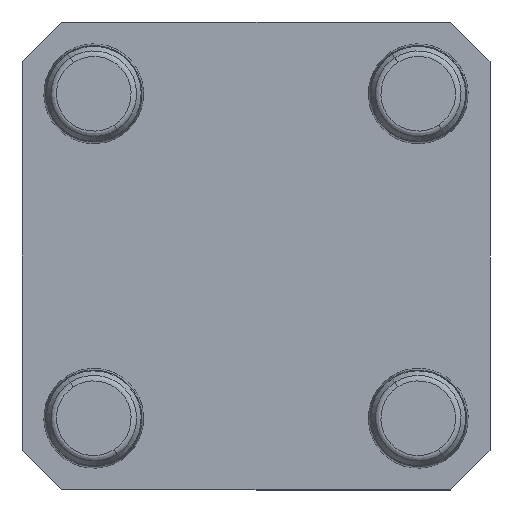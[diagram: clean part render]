
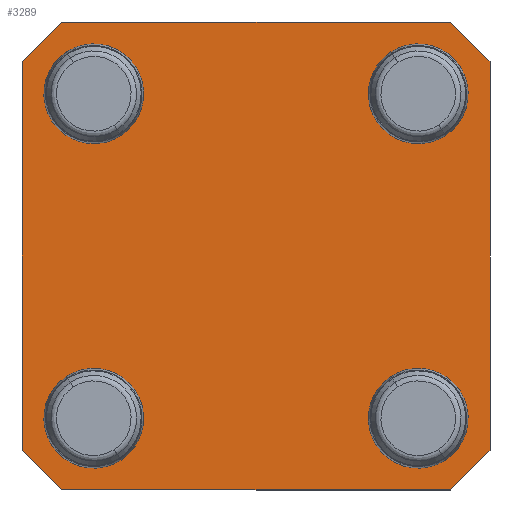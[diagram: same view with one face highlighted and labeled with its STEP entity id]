
A CAD part, front view. The second image highlights one B-rep face of the part: STEP entity #3289.
In plain terms, the highlighted planar face has unit normal (0, -1, 0).
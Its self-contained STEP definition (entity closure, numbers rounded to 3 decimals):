
#182 = AXIS2_PLACEMENT_3D ( 'NONE', #3803, #4791, #2777 ) ;
#204 = ORIENTED_EDGE ( 'NONE', *, *, #5782, .F. ) ;
#328 = ORIENTED_EDGE ( 'NONE', *, *, #696, .T. ) ;
#380 = CARTESIAN_POINT ( 'NONE',  ( 31.15, 0., 37.5 ) ) ;
#463 = CARTESIAN_POINT ( 'NONE',  ( -26., 0., -19.992 ) ) ;
#468 = CIRCLE ( 'NONE', #5931, 6.008 ) ;
#494 = LINE ( 'NONE', #3193, #1046 ) ;
#501 = DIRECTION ( 'NONE',  ( 0., 0., -1. ) ) ;
#529 = EDGE_CURVE ( 'NONE', #6461, #3405, #6573, .T. ) ;
#672 = VERTEX_POINT ( 'NONE', #5596 ) ;
#688 = EDGE_CURVE ( 'NONE', #6256, #2025, #2240, .T. ) ;
#696 = EDGE_CURVE ( 'NONE', #4309, #2489, #3587, .T. ) ;
#757 = FACE_BOUND ( 'NONE', #5953, .T. ) ;
#769 = VERTEX_POINT ( 'NONE', #3698 ) ;
#770 = DIRECTION ( 'NONE',  ( 0., -1., 0. ) ) ;
#857 = ORIENTED_EDGE ( 'NONE', *, *, #2333, .F. ) ;
#865 = VECTOR ( 'NONE', #2480, 1000. ) ;
#944 = AXIS2_PLACEMENT_3D ( 'NONE', #3293, #770, #3319 ) ;
#954 = DIRECTION ( 'NONE',  ( 0.707, 0., -0.707 ) ) ;
#964 = DIRECTION ( 'NONE',  ( 0., 0., 1. ) ) ;
#970 = DIRECTION ( 'NONE',  ( 0., 0., -1. ) ) ;
#996 = AXIS2_PLACEMENT_3D ( 'NONE', #4824, #4325, #6384 ) ;
#1026 = VECTOR ( 'NONE', #3255, 1000. ) ;
#1027 = CARTESIAN_POINT ( 'NONE',  ( 26., 0., -26. ) ) ;
#1040 = CARTESIAN_POINT ( 'NONE',  ( -34.325, 0., -34.325 ) ) ;
#1046 = VECTOR ( 'NONE', #5839, 1000. ) ;
#1050 = ORIENTED_EDGE ( 'NONE', *, *, #1521, .F. ) ;
#1128 = ORIENTED_EDGE ( 'NONE', *, *, #2441, .F. ) ;
#1171 = EDGE_CURVE ( 'NONE', #6461, #6632, #6171, .T. ) ;
#1187 = CARTESIAN_POINT ( 'NONE',  ( 26., 0., -26. ) ) ;
#1238 = ORIENTED_EDGE ( 'NONE', *, *, #2368, .F. ) ;
#1457 = CARTESIAN_POINT ( 'NONE',  ( -26., 0., -26. ) ) ;
#1471 = CARTESIAN_POINT ( 'NONE',  ( 31.15, 0., -37.5 ) ) ;
#1477 = FACE_BOUND ( 'NONE', #5206, .T. ) ;
#1521 = EDGE_CURVE ( 'NONE', #3361, #769, #3512, .T. ) ;
#1637 = AXIS2_PLACEMENT_3D ( 'NONE', #5233, #5277, #5256 ) ;
#1713 = DIRECTION ( 'NONE',  ( 0., 0., -1. ) ) ;
#1820 = VERTEX_POINT ( 'NONE', #6203 ) ;
#1873 = VERTEX_POINT ( 'NONE', #3232 ) ;
#1884 = ORIENTED_EDGE ( 'NONE', *, *, #1171, .F. ) ;
#1901 = CARTESIAN_POINT ( 'NONE',  ( 37.5, 0., 37.5 ) ) ;
#1937 = EDGE_CURVE ( 'NONE', #6512, #1820, #2312, .T. ) ;
#1954 = FACE_OUTER_BOUND ( 'NONE', #4228, .T. ) ;
#1968 = DIRECTION ( 'NONE',  ( 0., -1., 0. ) ) ;
#2025 = VERTEX_POINT ( 'NONE', #2283 ) ;
#2216 = DIRECTION ( 'NONE',  ( 0., -1., 0. ) ) ;
#2223 = ORIENTED_EDGE ( 'NONE', *, *, #4637, .F. ) ;
#2240 = LINE ( 'NONE', #4069, #3424 ) ;
#2283 = CARTESIAN_POINT ( 'NONE',  ( -37.5, 0., 31.15 ) ) ;
#2292 = CIRCLE ( 'NONE', #6023, 6.008 ) ;
#2312 = CIRCLE ( 'NONE', #4706, 6.008 ) ;
#2333 = EDGE_CURVE ( 'NONE', #6252, #2489, #6306, .T. ) ;
#2368 = EDGE_CURVE ( 'NONE', #3491, #672, #3652, .T. ) ;
#2441 = EDGE_CURVE ( 'NONE', #769, #3361, #468, .T. ) ;
#2480 = DIRECTION ( 'NONE',  ( -0.707, 0., 0.707 ) ) ;
#2489 = VERTEX_POINT ( 'NONE', #5748 ) ;
#2551 = ORIENTED_EDGE ( 'NONE', *, *, #2876, .F. ) ;
#2563 = DIRECTION ( 'NONE',  ( -0.707, 0., -0.707 ) ) ;
#2587 = LINE ( 'NONE', #5237, #5003 ) ;
#2595 = ORIENTED_EDGE ( 'NONE', *, *, #688, .T. ) ;
#2662 = DIRECTION ( 'NONE',  ( 0., -1., 0. ) ) ;
#2718 = DIRECTION ( 'NONE',  ( 0., -1., 0. ) ) ;
#2777 = DIRECTION ( 'NONE',  ( 0., 0., 1. ) ) ;
#2834 = EDGE_CURVE ( 'NONE', #1873, #5537, #2926, .T. ) ;
#2839 = CARTESIAN_POINT ( 'NONE',  ( -26., 0., 32.008 ) ) ;
#2876 = EDGE_CURVE ( 'NONE', #672, #3491, #2292, .T. ) ;
#2926 = CIRCLE ( 'NONE', #1637, 6.008 ) ;
#3101 = VECTOR ( 'NONE', #954, 1000. ) ;
#3147 = DIRECTION ( 'NONE',  ( 0., 0., 1. ) ) ;
#3193 = CARTESIAN_POINT ( 'NONE',  ( 34.325, 0., -34.325 ) ) ;
#3232 = CARTESIAN_POINT ( 'NONE',  ( -26., 0., -32.008 ) ) ;
#3246 = CARTESIAN_POINT ( 'NONE',  ( 37.5, 0., 31.15 ) ) ;
#3255 = DIRECTION ( 'NONE',  ( 1., 0., 0. ) ) ;
#3289 = ADVANCED_FACE ( 'NONE', ( #5593, #1477, #4430, #757, #1954 ), #5388, .T. ) ;
#3293 = CARTESIAN_POINT ( 'NONE',  ( 0., 0., 0. ) ) ;
#3319 = DIRECTION ( 'NONE',  ( 0., 0., -1. ) ) ;
#3348 = LINE ( 'NONE', #4650, #1026 ) ;
#3361 = VERTEX_POINT ( 'NONE', #3876 ) ;
#3405 = VERTEX_POINT ( 'NONE', #380 ) ;
#3424 = VECTOR ( 'NONE', #2563, 1000. ) ;
#3436 = CARTESIAN_POINT ( 'NONE',  ( -37.5, 0., -31.15 ) ) ;
#3463 = ORIENTED_EDGE ( 'NONE', *, *, #5831, .T. ) ;
#3491 = VERTEX_POINT ( 'NONE', #4482 ) ;
#3512 = CIRCLE ( 'NONE', #182, 6.008 ) ;
#3587 = LINE ( 'NONE', #1040, #3101 ) ;
#3652 = CIRCLE ( 'NONE', #5716, 6.008 ) ;
#3681 = DIRECTION ( 'NONE',  ( 0., 0., -1. ) ) ;
#3698 = CARTESIAN_POINT ( 'NONE',  ( 26., 0., 19.992 ) ) ;
#3735 = ORIENTED_EDGE ( 'NONE', *, *, #529, .T. ) ;
#3744 = CARTESIAN_POINT ( 'NONE',  ( -26., 0., 26. ) ) ;
#3803 = CARTESIAN_POINT ( 'NONE',  ( 26., 0., 26. ) ) ;
#3876 = CARTESIAN_POINT ( 'NONE',  ( 26., 0., 32.008 ) ) ;
#3925 = ORIENTED_EDGE ( 'NONE', *, *, #4673, .F. ) ;
#3998 = ORIENTED_EDGE ( 'NONE', *, *, #1937, .F. ) ;
#4015 = EDGE_LOOP ( 'NONE', ( #1128, #1050 ) ) ;
#4030 = CIRCLE ( 'NONE', #996, 6.008 ) ;
#4069 = CARTESIAN_POINT ( 'NONE',  ( -34.325, 0., 34.325 ) ) ;
#4228 = EDGE_LOOP ( 'NONE', ( #1884, #3735, #204, #2595, #2223, #328, #857, #3463 ) ) ;
#4309 = VERTEX_POINT ( 'NONE', #3436 ) ;
#4325 = DIRECTION ( 'NONE',  ( 0., -1., 0. ) ) ;
#4328 = CIRCLE ( 'NONE', #5622, 6.008 ) ;
#4430 = FACE_BOUND ( 'NONE', #4015, .T. ) ;
#4482 = CARTESIAN_POINT ( 'NONE',  ( 26., 0., -19.992 ) ) ;
#4637 = EDGE_CURVE ( 'NONE', #4309, #2025, #2587, .T. ) ;
#4650 = CARTESIAN_POINT ( 'NONE',  ( -37.5, 0., 37.5 ) ) ;
#4673 = EDGE_CURVE ( 'NONE', #1820, #6512, #4030, .T. ) ;
#4680 = ORIENTED_EDGE ( 'NONE', *, *, #5562, .F. ) ;
#4706 = AXIS2_PLACEMENT_3D ( 'NONE', #3744, #2216, #3681 ) ;
#4791 = DIRECTION ( 'NONE',  ( 0., -1., 0. ) ) ;
#4824 = CARTESIAN_POINT ( 'NONE',  ( -26., 0., 26. ) ) ;
#4867 = VECTOR ( 'NONE', #6123, 1000. ) ;
#5003 = VECTOR ( 'NONE', #5761, 1000. ) ;
#5065 = CARTESIAN_POINT ( 'NONE',  ( -31.15, 0., 37.5 ) ) ;
#5109 = CARTESIAN_POINT ( 'NONE',  ( -37.5, 0., -37.5 ) ) ;
#5206 = EDGE_LOOP ( 'NONE', ( #2551, #1238 ) ) ;
#5233 = CARTESIAN_POINT ( 'NONE',  ( -26., 0., -26. ) ) ;
#5237 = CARTESIAN_POINT ( 'NONE',  ( -37.5, 0., 37.5 ) ) ;
#5256 = DIRECTION ( 'NONE',  ( 0., 0., 1. ) ) ;
#5277 = DIRECTION ( 'NONE',  ( 0., -1., 0. ) ) ;
#5388 = PLANE ( 'NONE',  #944 ) ;
#5537 = VERTEX_POINT ( 'NONE', #463 ) ;
#5558 = DIRECTION ( 'NONE',  ( 0., -1., 0. ) ) ;
#5562 = EDGE_CURVE ( 'NONE', #5537, #1873, #4328, .T. ) ;
#5593 = FACE_BOUND ( 'NONE', #6325, .T. ) ;
#5596 = CARTESIAN_POINT ( 'NONE',  ( 26., 0., -32.008 ) ) ;
#5622 = AXIS2_PLACEMENT_3D ( 'NONE', #1457, #5558, #964 ) ;
#5716 = AXIS2_PLACEMENT_3D ( 'NONE', #1027, #1968, #501 ) ;
#5748 = CARTESIAN_POINT ( 'NONE',  ( -31.15, 0., -37.5 ) ) ;
#5761 = DIRECTION ( 'NONE',  ( 0., 0., 1. ) ) ;
#5782 = EDGE_CURVE ( 'NONE', #6256, #3405, #3348, .T. ) ;
#5831 = EDGE_CURVE ( 'NONE', #6252, #6632, #494, .T. ) ;
#5839 = DIRECTION ( 'NONE',  ( 0.707, 0., 0.707 ) ) ;
#5916 = CARTESIAN_POINT ( 'NONE',  ( 37.5, 0., -31.15 ) ) ;
#5931 = AXIS2_PLACEMENT_3D ( 'NONE', #6211, #2662, #3147 ) ;
#5953 = EDGE_LOOP ( 'NONE', ( #3925, #3998 ) ) ;
#6023 = AXIS2_PLACEMENT_3D ( 'NONE', #1187, #2718, #1713 ) ;
#6083 = ORIENTED_EDGE ( 'NONE', *, *, #2834, .F. ) ;
#6123 = DIRECTION ( 'NONE',  ( -1., 0., 0. ) ) ;
#6171 = LINE ( 'NONE', #1901, #6502 ) ;
#6203 = CARTESIAN_POINT ( 'NONE',  ( -26., 0., 19.992 ) ) ;
#6211 = CARTESIAN_POINT ( 'NONE',  ( 26., 0., 26. ) ) ;
#6252 = VERTEX_POINT ( 'NONE', #1471 ) ;
#6256 = VERTEX_POINT ( 'NONE', #5065 ) ;
#6306 = LINE ( 'NONE', #5109, #4867 ) ;
#6325 = EDGE_LOOP ( 'NONE', ( #6083, #4680 ) ) ;
#6384 = DIRECTION ( 'NONE',  ( 0., 0., -1. ) ) ;
#6461 = VERTEX_POINT ( 'NONE', #3246 ) ;
#6502 = VECTOR ( 'NONE', #970, 1000. ) ;
#6512 = VERTEX_POINT ( 'NONE', #2839 ) ;
#6569 = CARTESIAN_POINT ( 'NONE',  ( 34.325, 0., 34.325 ) ) ;
#6573 = LINE ( 'NONE', #6569, #865 ) ;
#6632 = VERTEX_POINT ( 'NONE', #5916 ) ;
